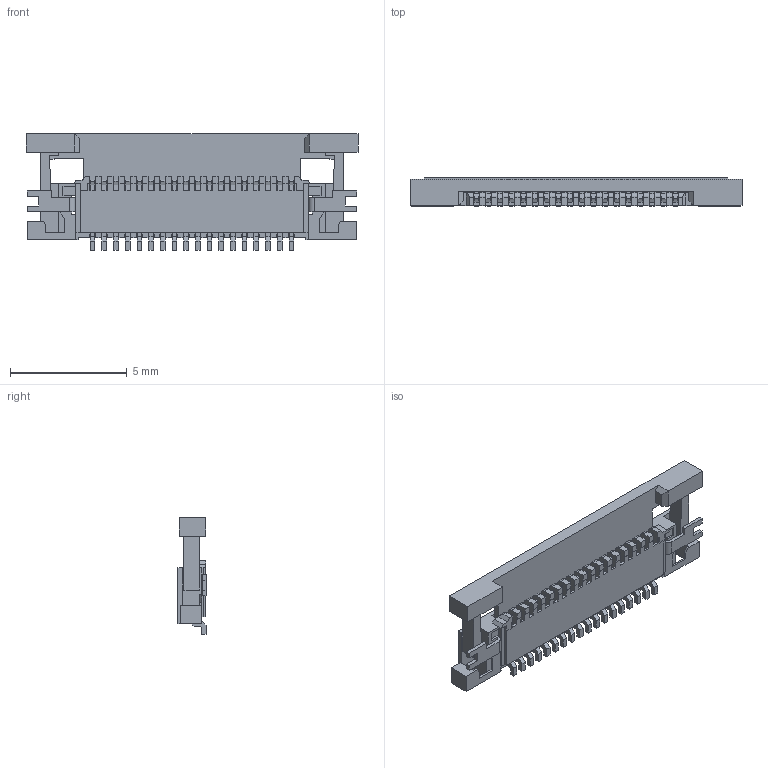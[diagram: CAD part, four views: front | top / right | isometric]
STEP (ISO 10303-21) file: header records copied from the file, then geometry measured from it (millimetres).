
FILE_DESCRIPTION((''),'2;1');
FILE_NAME('545481871','2015-07-24T',('me'),(''),'PRO/ENGINEER BY PARAMETRIC TECHNOLOGY CORPORATION, 2011490','PRO/ENGINEER BY PARAMETRIC TECHNOLOGY CORPORATION, 2011490','');
FILE_SCHEMA(('CONFIG_CONTROL_DESIGN'));
Length unit declared in the file: millimetre
Products named in the file (1): 545481871
Bounding box: 14.2 x 1.2 x 5 mm (x, y, z)
Volume: 36.3 mm3; surface area: 361.1 mm2
Topology: 1 solids, 1 shells, 1119 faces, 3516 edges, 2358 vertices
Faces by surface type: plane 986, cylinder 133
Entity records: 38378 total; most frequent: CARTESIAN_POINT 6921, ORIENTED_EDGE 6866, DIRECTION 6016, EDGE_CURVE 3433, VECTOR 3248, LINE 3248, VERTEX_POINT 2272, AXIS2_PLACEMENT_3D 1384
